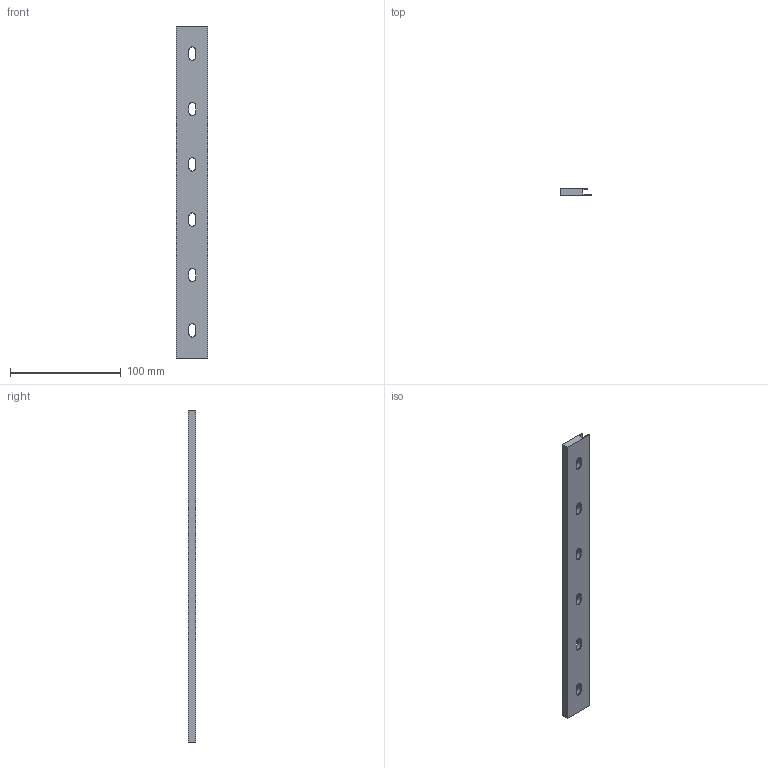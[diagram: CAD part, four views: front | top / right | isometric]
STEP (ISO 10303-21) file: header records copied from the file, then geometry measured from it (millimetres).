
FILE_DESCRIPTION((''),'2;1');
FILE_NAME('U-300','2022-07-26T',('Administrator'),(''),'CREO PARAMETRIC BY PTC INC, 2015290','CREO PARAMETRIC BY PTC INC, 2015290','');
FILE_SCHEMA(('CONFIG_CONTROL_DESIGN'));
Length unit declared in the file: millimetre
Products named in the file (1): U-300
Bounding box: 28.5 x 6.4 x 300 mm (x, y, z)
Volume: 37338.8 mm3; surface area: 24516.1 mm2
Topology: 1 solids, 1 shells, 65 faces, 171 edges, 114 vertices
Faces by surface type: plane 41, cylinder 24
Entity records: 2075 total; most frequent: CARTESIAN_POINT 350, DIRECTION 349, ORIENTED_EDGE 342, EDGE_CURVE 171, VECTOR 123, LINE 123, VERTEX_POINT 114, AXIS2_PLACEMENT_3D 113
